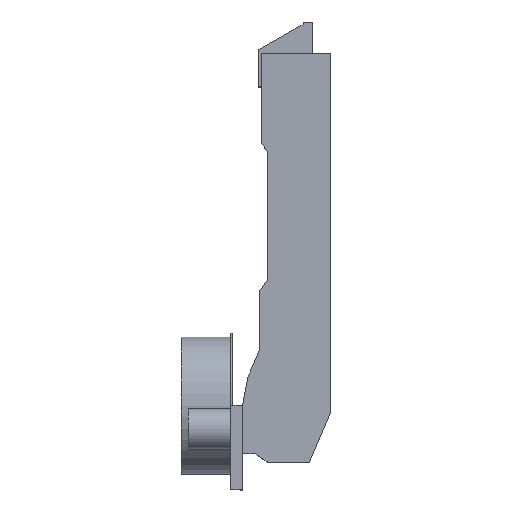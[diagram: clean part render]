
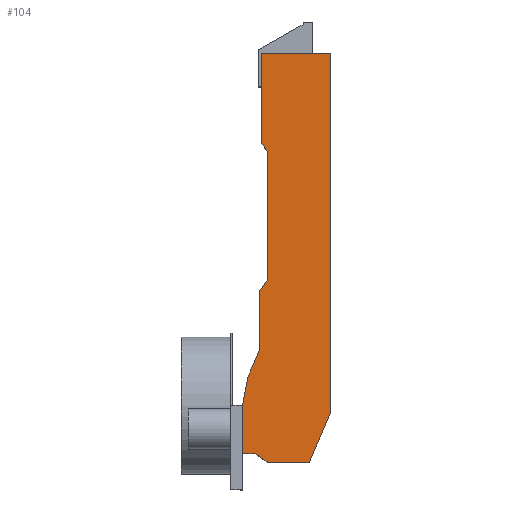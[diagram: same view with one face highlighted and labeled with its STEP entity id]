
A CAD part, top view. The second image highlights one B-rep face of the part: STEP entity #104.
In plain terms, the highlighted planar face has unit normal (0, 0, 1).
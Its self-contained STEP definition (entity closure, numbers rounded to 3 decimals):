
#6 = CARTESIAN_POINT ( 'NONE',  ( 3.01, -12.294, 8.5 ) ) ;
#39 = CARTESIAN_POINT ( 'NONE',  ( 6., 65.1, 8.5 ) ) ;
#40 = CARTESIAN_POINT ( 'NONE',  ( 4.01, 29.266, 8.5 ) ) ;
#45 = CARTESIAN_POINT ( 'NONE',  ( 6., 32.108, 8.5 ) ) ;
#48 = CARTESIAN_POINT ( 'NONE',  ( 22.25, -1.744, 8.5 ) ) ;
#104 = ADVANCED_FACE ( 'NONE', ( #1711 ), #1133, .T. ) ;
#113 = CARTESIAN_POINT ( 'NONE',  ( 22.25, 90.1, 8.5 ) ) ;
#316 = ORIENTED_EDGE ( 'NONE', *, *, #1299, .T. ) ;
#317 = ORIENTED_EDGE ( 'NONE', *, *, #1373, .T. ) ;
#318 = ORIENTED_EDGE ( 'NONE', *, *, #1366, .T. ) ;
#319 = ORIENTED_EDGE ( 'NONE', *, *, #1350, .T. ) ;
#320 = ORIENTED_EDGE ( 'NONE', *, *, #1395, .T. ) ;
#321 = ORIENTED_EDGE ( 'NONE', *, *, #1346, .T. ) ;
#322 = ORIENTED_EDGE ( 'NONE', *, *, #1358, .T. ) ;
#323 = ORIENTED_EDGE ( 'NONE', *, *, #1298, .T. ) ;
#324 = ORIENTED_EDGE ( 'NONE', *, *, #1384, .T. ) ;
#325 = ORIENTED_EDGE ( 'NONE', *, *, #1380, .T. ) ;
#326 = ORIENTED_EDGE ( 'NONE', *, *, #1401, .T. ) ;
#327 = ORIENTED_EDGE ( 'NONE', *, *, #1376, .T. ) ;
#328 = ORIENTED_EDGE ( 'NONE', *, *, #1381, .T. ) ;
#329 = ORIENTED_EDGE ( 'NONE', *, *, #1354, .T. ) ;
#429 = EDGE_LOOP ( 'NONE', ( #329, #328, #327, #326, #325, #324, #323, #322, #321, #320, #319, #318, #317, #316 ) ) ;
#498 = CARTESIAN_POINT ( 'NONE',  ( -0.3, 0., 8.5 ) ) ;
#500 = CARTESIAN_POINT ( 'NONE',  ( 1.11, 7.296, 8.5 ) ) ;
#588 = CARTESIAN_POINT ( 'NONE',  ( 22.25, 90.1, 8.5 ) ) ;
#590 = CARTESIAN_POINT ( 'NONE',  ( -0.3, 0., 8.5 ) ) ;
#591 = DIRECTION ( 'NONE',  ( -1., 0., 0. ) ) ;
#593 = DIRECTION ( 'NONE',  ( -0.19, -0.982, 0. ) ) ;
#701 = CARTESIAN_POINT ( 'NONE',  ( 6., 65.1, 8.5 ) ) ;
#702 = DIRECTION ( 'NONE',  ( 0.574, -0.819, 0. ) ) ;
#707 = CARTESIAN_POINT ( 'NONE',  ( 4.01, 29.266, 8.5 ) ) ;
#710 = DIRECTION ( 'NONE',  ( -0.574, -0.819, 0. ) ) ;
#717 = CARTESIAN_POINT ( 'NONE',  ( -0.3, 0., 8.5 ) ) ;
#718 = DIRECTION ( 'NONE',  ( 0., -1., 0. ) ) ;
#725 = CARTESIAN_POINT ( 'NONE',  ( 4.5, 67.242, 8.5 ) ) ;
#726 = DIRECTION ( 'NONE',  ( 0., -1., 0. ) ) ;
#741 = CARTESIAN_POINT ( 'NONE',  ( 4.01, 14.096, 8.5 ) ) ;
#742 = DIRECTION ( 'NONE',  ( 0., -1., 0. ) ) ;
#756 = CARTESIAN_POINT ( 'NONE',  ( 1.11, 7.296, 8.5 ) ) ;
#757 = DIRECTION ( 'NONE',  ( -0.392, -0.92, 0. ) ) ;
#762 = CARTESIAN_POINT ( 'NONE',  ( 3.01, -12.294, 8.5 ) ) ;
#763 = DIRECTION ( 'NONE',  ( 0.819, -0.574, 0. ) ) ;
#764 = CARTESIAN_POINT ( 'NONE',  ( 22.25, -1.744, 8.5 ) ) ;
#771 = CARTESIAN_POINT ( 'NONE',  ( 16.783, -14.594, 8.5 ) ) ;
#772 = DIRECTION ( 'NONE',  ( 0.392, 0.92, 0. ) ) ;
#773 = CARTESIAN_POINT ( 'NONE',  ( -0.3, -12.294, 8.5 ) ) ;
#774 = DIRECTION ( 'NONE',  ( 1., 0., 0. ) ) ;
#781 = DIRECTION ( 'NONE',  ( 0., 1., 0. ) ) ;
#804 = CARTESIAN_POINT ( 'NONE',  ( 6., 32.108, 8.5 ) ) ;
#805 = DIRECTION ( 'NONE',  ( 0., -1., 0. ) ) ;
#816 = CARTESIAN_POINT ( 'NONE',  ( 6.295, -14.594, 8.5 ) ) ;
#817 = DIRECTION ( 'NONE',  ( 1., 0., 0. ) ) ;
#866 = VERTEX_POINT ( 'NONE', #1177 ) ;
#867 = VERTEX_POINT ( 'NONE', #1173 ) ;
#868 = VERTEX_POINT ( 'NONE', #1178 ) ;
#870 = VERTEX_POINT ( 'NONE', #1180 ) ;
#871 = VERTEX_POINT ( 'NONE', #1181 ) ;
#876 = VERTEX_POINT ( 'NONE', #1186 ) ;
#892 = VERTEX_POINT ( 'NONE', #39 ) ;
#893 = VERTEX_POINT ( 'NONE', #40 ) ;
#898 = VERTEX_POINT ( 'NONE', #45 ) ;
#901 = VERTEX_POINT ( 'NONE', #48 ) ;
#928 = VERTEX_POINT ( 'NONE', #6 ) ;
#937 = VERTEX_POINT ( 'NONE', #113 ) ;
#941 = VERTEX_POINT ( 'NONE', #498 ) ;
#943 = VERTEX_POINT ( 'NONE', #500 ) ;
#1132 = CARTESIAN_POINT ( 'NONE',  ( -0.3, -12.294, 8.5 ) ) ;
#1133 = PLANE ( 'NONE',  #1214 ) ;
#1135 = DIRECTION ( 'NONE',  ( 0., 0., 1. ) ) ;
#1136 = DIRECTION ( 'NONE',  ( 0., -1., 0. ) ) ;
#1173 = CARTESIAN_POINT ( 'NONE',  ( -0.3, -12.294, 8.5 ) ) ;
#1177 = CARTESIAN_POINT ( 'NONE',  ( 16.783, -14.594, 8.5 ) ) ;
#1178 = CARTESIAN_POINT ( 'NONE',  ( 4.5, 90.1, 8.5 ) ) ;
#1180 = CARTESIAN_POINT ( 'NONE',  ( 4.5, 67.242, 8.5 ) ) ;
#1181 = CARTESIAN_POINT ( 'NONE',  ( 6.295, -14.594, 8.5 ) ) ;
#1186 = CARTESIAN_POINT ( 'NONE',  ( 4.01, 14.096, 8.5 ) ) ;
#1214 = AXIS2_PLACEMENT_3D ( 'NONE', #1132, #1135, #1136 ) ;
#1298 = EDGE_CURVE ( 'NONE', #937, #868, #1645, .T. ) ;
#1299 = EDGE_CURVE ( 'NONE', #943, #941, #1652, .T. ) ;
#1346 = EDGE_CURVE ( 'NONE', #870, #892, #1562, .T. ) ;
#1350 = EDGE_CURVE ( 'NONE', #898, #893, #1560, .T. ) ;
#1354 = EDGE_CURVE ( 'NONE', #941, #867, #1542, .T. ) ;
#1358 = EDGE_CURVE ( 'NONE', #868, #870, #1534, .T. ) ;
#1366 = EDGE_CURVE ( 'NONE', #893, #876, #1518, .T. ) ;
#1373 = EDGE_CURVE ( 'NONE', #876, #943, #1504, .T. ) ;
#1376 = EDGE_CURVE ( 'NONE', #928, #871, #1498, .T. ) ;
#1380 = EDGE_CURVE ( 'NONE', #866, #901, #1491, .T. ) ;
#1381 = EDGE_CURVE ( 'NONE', #867, #928, #1489, .T. ) ;
#1384 = EDGE_CURVE ( 'NONE', #901, #937, #1485, .T. ) ;
#1395 = EDGE_CURVE ( 'NONE', #892, #898, #1466, .T. ) ;
#1401 = EDGE_CURVE ( 'NONE', #871, #866, #1454, .T. ) ;
#1453 = VECTOR ( 'NONE', #817, 1000. ) ;
#1454 = LINE ( 'NONE', #816, #1453 ) ;
#1465 = VECTOR ( 'NONE', #805, 1000. ) ;
#1466 = LINE ( 'NONE', #804, #1465 ) ;
#1485 = LINE ( 'NONE', #764, #1505 ) ;
#1488 = VECTOR ( 'NONE', #774, 1000. ) ;
#1489 = LINE ( 'NONE', #773, #1488 ) ;
#1490 = VECTOR ( 'NONE', #772, 1000. ) ;
#1491 = LINE ( 'NONE', #771, #1490 ) ;
#1497 = VECTOR ( 'NONE', #763, 1000. ) ;
#1498 = LINE ( 'NONE', #762, #1497 ) ;
#1503 = VECTOR ( 'NONE', #757, 1000. ) ;
#1504 = LINE ( 'NONE', #756, #1503 ) ;
#1505 = VECTOR ( 'NONE', #781, 1000. ) ;
#1517 = VECTOR ( 'NONE', #742, 1000. ) ;
#1518 = LINE ( 'NONE', #741, #1517 ) ;
#1533 = VECTOR ( 'NONE', #726, 1000. ) ;
#1534 = LINE ( 'NONE', #725, #1533 ) ;
#1541 = VECTOR ( 'NONE', #718, 1000. ) ;
#1542 = LINE ( 'NONE', #717, #1541 ) ;
#1550 = VECTOR ( 'NONE', #710, 1000. ) ;
#1560 = LINE ( 'NONE', #707, #1550 ) ;
#1562 = LINE ( 'NONE', #701, #1568 ) ;
#1568 = VECTOR ( 'NONE', #702, 1000. ) ;
#1637 = VECTOR ( 'NONE', #593, 1000. ) ;
#1639 = VECTOR ( 'NONE', #591, 1000. ) ;
#1645 = LINE ( 'NONE', #588, #1639 ) ;
#1652 = LINE ( 'NONE', #590, #1637 ) ;
#1711 = FACE_OUTER_BOUND ( 'NONE', #429, .T. ) ;
